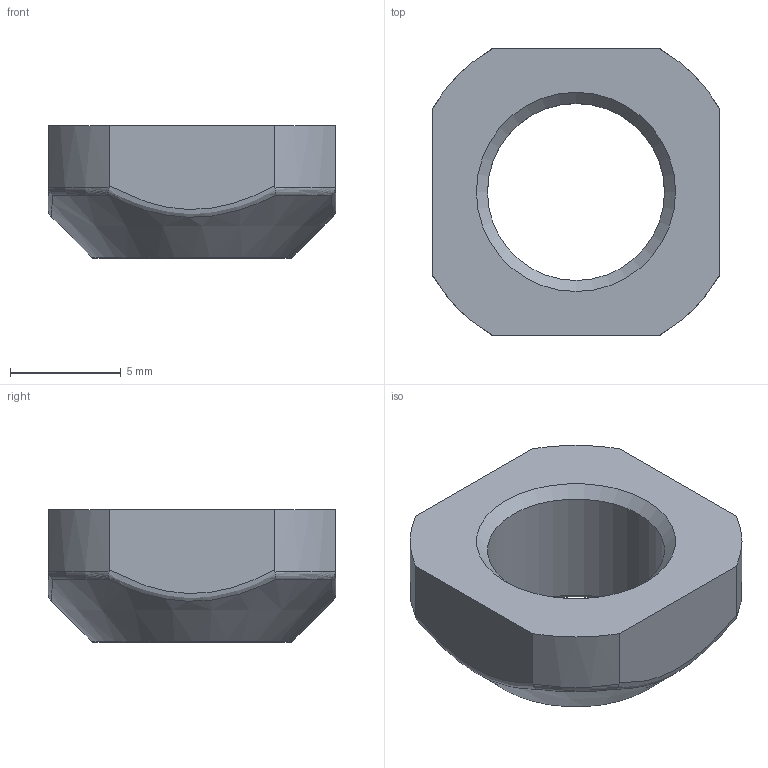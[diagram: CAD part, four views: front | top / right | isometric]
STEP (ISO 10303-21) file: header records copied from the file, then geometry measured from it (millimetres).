
FILE_DESCRIPTION (( 'STEP AP214' ), '1' );
FILE_NAME ('SF01004.step', '2024-12-03T16:29:22', ( '' ), ( '' ), 'SwSTEP 2.0', 'SolidWorks 2023', '' );
FILE_SCHEMA (( 'AUTOMOTIVE_DESIGN' ));
Length unit declared in the file: millimetre
Products named in the file (1): SF01004
Bounding box: 13 x 13 x 6 mm (x, y, z)
Volume: 502.4 mm3; surface area: 547.9 mm2
Topology: 1 solids, 1 shells, 23 faces, 60 edges, 39 vertices
Faces by surface type: plane 6, torus 6, cylinder 5, bspline 4, cone 2
Full cylindrical faces by diameter (mm): 8 x1
Entity records: 969 total; most frequent: CARTESIAN_POINT 448, ORIENTED_EDGE 108, DIRECTION 88, EDGE_CURVE 54, AXIS2_PLACEMENT_3D 38, VERTEX_POINT 38, EDGE_LOOP 30, FACE_OUTER_BOUND 26
